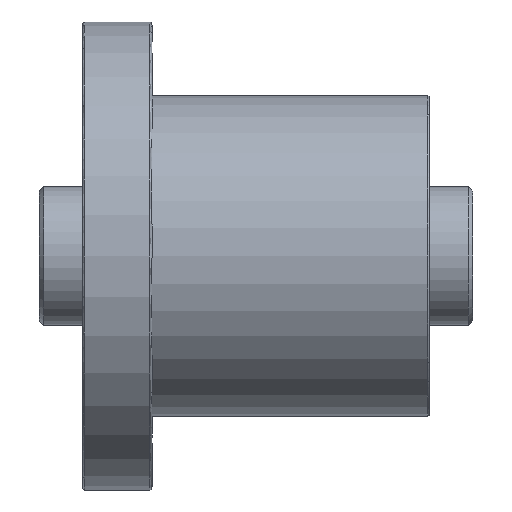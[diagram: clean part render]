
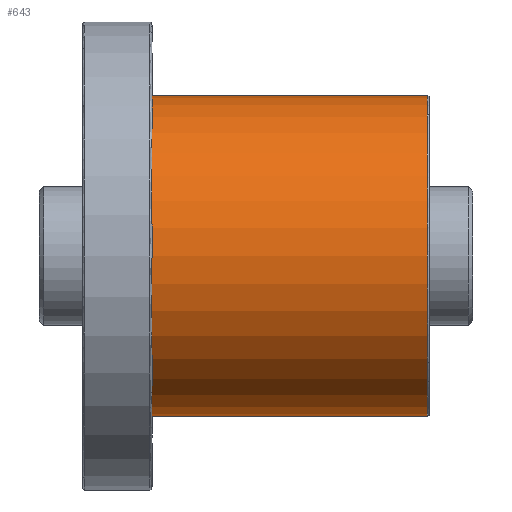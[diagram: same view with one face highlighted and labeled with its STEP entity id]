
A CAD part, front view. The second image highlights one B-rep face of the part: STEP entity #643.
In plain terms, the highlighted cylindrical face has radius 37 mm (diameter 74 mm), a partial arc.
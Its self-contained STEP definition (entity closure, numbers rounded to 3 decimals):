
#120 = ORIENTED_EDGE ( 'NONE', *, *, #3263, .T. ) ;
#128 = CARTESIAN_POINT ( 'NONE',  ( 79.5, 0., -37. ) ) ;
#643 = ADVANCED_FACE ( 'NONE', ( #818 ), #2890, .T. ) ;
#652 = CARTESIAN_POINT ( 'NONE',  ( 16., 0., 37. ) ) ;
#818 = FACE_OUTER_BOUND ( 'NONE', #5586, .T. ) ;
#1319 = VERTEX_POINT ( 'NONE', #2389 ) ;
#1488 = DIRECTION ( 'NONE',  ( -1., 0., 0. ) ) ;
#1730 = AXIS2_PLACEMENT_3D ( 'NONE', #5233, #2051, #3903 ) ;
#1859 = CARTESIAN_POINT ( 'NONE',  ( 16., 0., 0. ) ) ;
#2051 = DIRECTION ( 'NONE',  ( -1., 0., 0. ) ) ;
#2133 = ORIENTED_EDGE ( 'NONE', *, *, #2561, .T. ) ;
#2169 = VERTEX_POINT ( 'NONE', #652 ) ;
#2329 = CIRCLE ( 'NONE', #3902, 37. ) ;
#2389 = CARTESIAN_POINT ( 'NONE',  ( 16., 0., -37. ) ) ;
#2470 = VERTEX_POINT ( 'NONE', #7394 ) ;
#2561 = EDGE_CURVE ( 'NONE', #5864, #2470, #7347, .T. ) ;
#2890 = CYLINDRICAL_SURFACE ( 'NONE', #6268, 37. ) ;
#3263 = EDGE_CURVE ( 'NONE', #2470, #2169, #7523, .T. ) ;
#3330 = DIRECTION ( 'NONE',  ( -1., 0., 0. ) ) ;
#3385 = ORIENTED_EDGE ( 'NONE', *, *, #4659, .T. ) ;
#3625 = DIRECTION ( 'NONE',  ( -1., 0., 0. ) ) ;
#3655 = ORIENTED_EDGE ( 'NONE', *, *, #6065, .F. ) ;
#3786 = VECTOR ( 'NONE', #3625, 1000. ) ;
#3902 = AXIS2_PLACEMENT_3D ( 'NONE', #1859, #6326, #6933 ) ;
#3903 = DIRECTION ( 'NONE',  ( 0., 0., 1. ) ) ;
#4659 = EDGE_CURVE ( 'NONE', #2169, #1319, #2329, .T. ) ;
#4676 = DIRECTION ( 'NONE',  ( 0., 0., 1. ) ) ;
#4761 = VECTOR ( 'NONE', #3330, 1000. ) ;
#5233 = CARTESIAN_POINT ( 'NONE',  ( 79.5, 0., 0. ) ) ;
#5586 = EDGE_LOOP ( 'NONE', ( #3655, #2133, #120, #3385 ) ) ;
#5864 = VERTEX_POINT ( 'NONE', #128 ) ;
#6065 = EDGE_CURVE ( 'NONE', #5864, #1319, #7175, .T. ) ;
#6268 = AXIS2_PLACEMENT_3D ( 'NONE', #7865, #1488, #4676 ) ;
#6326 = DIRECTION ( 'NONE',  ( 1., 0., 0. ) ) ;
#6933 = DIRECTION ( 'NONE',  ( 0., 0., 1. ) ) ;
#7175 = LINE ( 'NONE', #8102, #3786 ) ;
#7347 = CIRCLE ( 'NONE', #1730, 37. ) ;
#7394 = CARTESIAN_POINT ( 'NONE',  ( 79.5, 0., 37. ) ) ;
#7523 = LINE ( 'NONE', #7752, #4761 ) ;
#7752 = CARTESIAN_POINT ( 'NONE',  ( 80., 0., 37. ) ) ;
#7865 = CARTESIAN_POINT ( 'NONE',  ( 80., 0., 0. ) ) ;
#8102 = CARTESIAN_POINT ( 'NONE',  ( 80., 0., -37. ) ) ;
